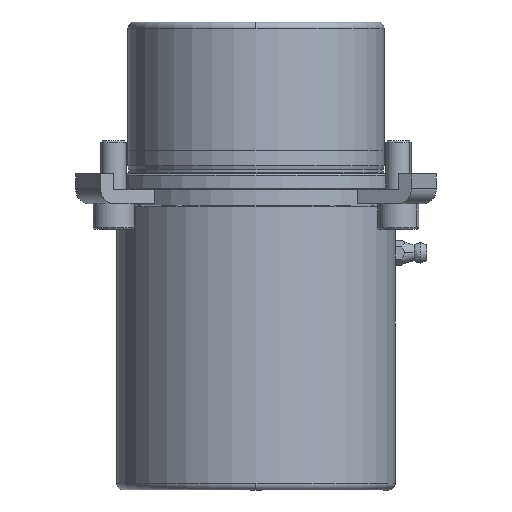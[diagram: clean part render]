
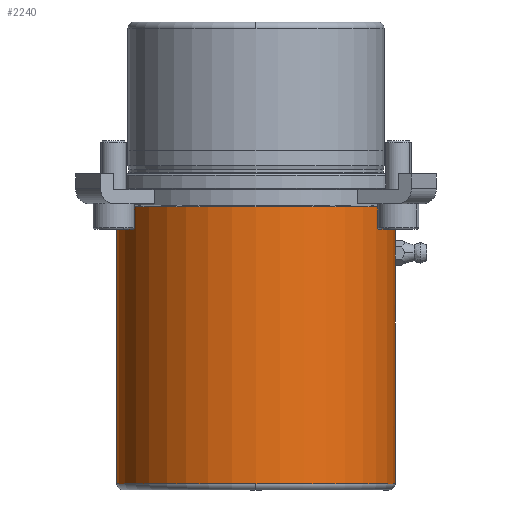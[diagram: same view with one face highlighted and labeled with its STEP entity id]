
A CAD part, front view. The second image highlights one B-rep face of the part: STEP entity #2240.
In plain terms, the highlighted cylindrical face has radius 44 mm (diameter 88 mm), a partial arc.
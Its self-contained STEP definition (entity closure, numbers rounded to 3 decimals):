
#604=CARTESIAN_POINT('',(0.,-44.,-98.));
#605=VERTEX_POINT('',#604);
#613=CARTESIAN_POINT('',(-44.0,0.,-98.));
#614=VERTEX_POINT('',#613);
#615=CARTESIAN_POINT('',(0.0,0.,-98.));
#616=DIRECTION('',(0.0,0.0,-1.0));
#617=DIRECTION('',(1.0,0.0,0.0));
#618=AXIS2_PLACEMENT_3D('',#615,#616,#617);
#619=CIRCLE('',#618,44.);
#620=EDGE_CURVE('',#605,#614,#619,.T.);
#637=CARTESIAN_POINT('',(44.,0.,-98.0));
#638=VERTEX_POINT('',#637);
#639=CARTESIAN_POINT('',(44.0,0.,-27.5));
#640=VERTEX_POINT('',#639);
#641=CARTESIAN_POINT('',(44.,0.,-98.0));
#642=DIRECTION('',(0.0,0.0,1.0));
#643=VECTOR('',#642,70.5);
#644=LINE('',#641,#643);
#645=EDGE_CURVE('',#638,#640,#644,.T.);
#655=CARTESIAN_POINT('',(-44.0,0.,-10.5));
#656=VERTEX_POINT('',#655);
#657=CARTESIAN_POINT('',(-44.0,0.,-98.));
#658=DIRECTION('',(0.0,0.0,1.0));
#659=VECTOR('',#658,87.5);
#660=LINE('',#657,#659);
#661=EDGE_CURVE('',#614,#656,#660,.T.);
#663=CARTESIAN_POINT('',(44.0,0.,-10.5));
#664=VERTEX_POINT('',#663);
#672=CARTESIAN_POINT('',(44.0,0.,-22.5));
#673=VERTEX_POINT('',#672);
#674=CARTESIAN_POINT('',(44.0,0.,-22.5));
#675=DIRECTION('',(0.0,0.0,1.0));
#676=VECTOR('',#675,12.0);
#677=LINE('',#674,#676);
#678=EDGE_CURVE('',#673,#664,#677,.T.);
#1579=CARTESIAN_POINT('',(43.929,-2.5,-25.0));
#1580=VERTEX_POINT('',#1579);
#1581=CARTESIAN_POINT('',(43.929,-2.5,-25.0));
#1582=CARTESIAN_POINT('',(43.929,-2.5,-24.843));
#1583=CARTESIAN_POINT('',(43.93,-2.485,-24.681));
#1584=CARTESIAN_POINT('',(43.933,-2.422,-24.358));
#1585=CARTESIAN_POINT('',(43.936,-2.373,-24.197));
#1586=CARTESIAN_POINT('',(43.943,-2.246,-23.889));
#1587=CARTESIAN_POINT('',(43.947,-2.166,-23.742));
#1588=CARTESIAN_POINT('',(43.955,-1.983,-23.469));
#1589=CARTESIAN_POINT('',(43.96,-1.879,-23.343));
#1590=CARTESIAN_POINT('',(43.969,-1.657,-23.121));
#1591=CARTESIAN_POINT('',(43.974,-1.531,-23.017));
#1592=CARTESIAN_POINT('',(43.982,-1.258,-22.834));
#1593=CARTESIAN_POINT('',(43.986,-1.111,-22.754));
#1594=CARTESIAN_POINT('',(43.993,-0.803,-22.627));
#1595=CARTESIAN_POINT('',(43.996,-0.642,-22.578));
#1596=CARTESIAN_POINT('',(43.999,-0.319,-22.515));
#1597=CARTESIAN_POINT('',(44.0,-0.157,-22.5));
#1598=CARTESIAN_POINT('',(44.0,0.,-22.5));
#1599=B_SPLINE_CURVE_WITH_KNOTS('',3,(#1581,#1582,#1583,#1584,#1585,#1586,#1587,#1588,#1589,#1590,#1591,#1592,#1593,#1594,#1595,#1596,#1597,#1598),.UNSPECIFIED.,.F.,.U.,(4,2,2,2,2,2,2,2,4),(0.0,0.471,0.942,1.413,1.884,2.355,2.826,3.297,3.768),.UNSPECIFIED.);
#1600=EDGE_CURVE('',#1580,#673,#1599,.T.);
#1602=CARTESIAN_POINT('',(44.0,0.,-27.5));
#1603=CARTESIAN_POINT('',(44.0,-0.157,-27.5));
#1604=CARTESIAN_POINT('',(43.999,-0.319,-27.485));
#1605=CARTESIAN_POINT('',(43.996,-0.642,-27.422));
#1606=CARTESIAN_POINT('',(43.993,-0.803,-27.373));
#1607=CARTESIAN_POINT('',(43.986,-1.111,-27.246));
#1608=CARTESIAN_POINT('',(43.982,-1.258,-27.166));
#1609=CARTESIAN_POINT('',(43.974,-1.531,-26.983));
#1610=CARTESIAN_POINT('',(43.969,-1.657,-26.879));
#1611=CARTESIAN_POINT('',(43.96,-1.879,-26.657));
#1612=CARTESIAN_POINT('',(43.955,-1.983,-26.531));
#1613=CARTESIAN_POINT('',(43.947,-2.166,-26.258));
#1614=CARTESIAN_POINT('',(43.943,-2.246,-26.111));
#1615=CARTESIAN_POINT('',(43.936,-2.373,-25.803));
#1616=CARTESIAN_POINT('',(43.933,-2.422,-25.642));
#1617=CARTESIAN_POINT('',(43.93,-2.485,-25.319));
#1618=CARTESIAN_POINT('',(43.929,-2.5,-25.157));
#1619=CARTESIAN_POINT('',(43.929,-2.5,-25.0));
#1620=B_SPLINE_CURVE_WITH_KNOTS('',3,(#1602,#1603,#1604,#1605,#1606,#1607,#1608,#1609,#1610,#1611,#1612,#1613,#1614,#1615,#1616,#1617,#1618,#1619),.UNSPECIFIED.,.F.,.U.,(4,2,2,2,2,2,2,2,4),(11.303,11.774,12.245,12.716,13.187,13.658,14.129,14.6,15.071),.UNSPECIFIED.);
#1621=EDGE_CURVE('',#640,#1580,#1620,.T.);
#2209=CARTESIAN_POINT('',(0.0,0.,-10.5));
#2210=DIRECTION('',(0.0,0.0,-1.0));
#2211=DIRECTION('',(1.0,0.0,0.0));
#2212=AXIS2_PLACEMENT_3D('',#2209,#2210,#2211);
#2213=CIRCLE('',#2212,44.0);
#2214=EDGE_CURVE('',#664,#656,#2213,.T.);
#2219=CARTESIAN_POINT('',(0.0,0.,-54.25));
#2220=DIRECTION('',(0.0,0.,-1.0));
#2221=DIRECTION('',(1.0,0.0,0.0));
#2222=AXIS2_PLACEMENT_3D('',#2219,#2220,#2221);
#2223=CYLINDRICAL_SURFACE('',#2222,44.0);
#2224=ORIENTED_EDGE('',*,*,#645,.T.);
#2225=ORIENTED_EDGE('',*,*,#1621,.T.);
#2226=ORIENTED_EDGE('',*,*,#1600,.T.);
#2227=ORIENTED_EDGE('',*,*,#678,.T.);
#2228=ORIENTED_EDGE('',*,*,#2214,.T.);
#2229=ORIENTED_EDGE('',*,*,#661,.F.);
#2230=ORIENTED_EDGE('',*,*,#620,.F.);
#2231=CARTESIAN_POINT('',(0.0,0.,-98.));
#2232=DIRECTION('',(0.0,0.0,-1.0));
#2233=DIRECTION('',(1.0,0.0,0.0));
#2234=AXIS2_PLACEMENT_3D('',#2231,#2232,#2233);
#2235=CIRCLE('',#2234,44.);
#2236=EDGE_CURVE('',#638,#605,#2235,.T.);
#2237=ORIENTED_EDGE('',*,*,#2236,.F.);
#2238=EDGE_LOOP('',(#2224,#2225,#2226,#2227,#2228,#2229,#2230,#2237));
#2239=FACE_OUTER_BOUND('',#2238,.T.);
#2240=ADVANCED_FACE('',(#2239),#2223,.T.);
